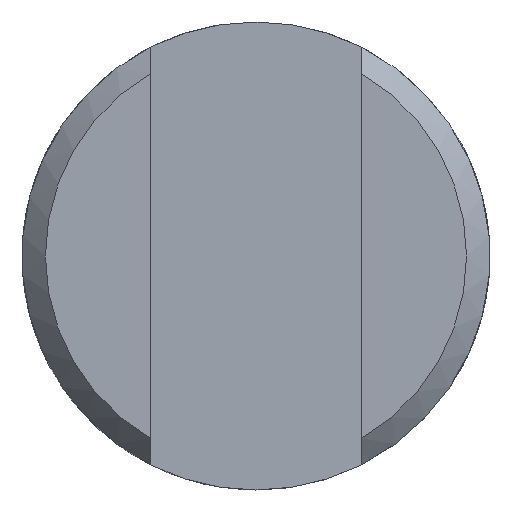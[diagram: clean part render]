
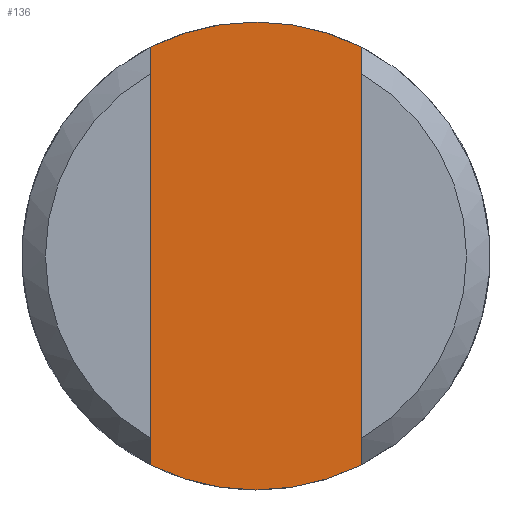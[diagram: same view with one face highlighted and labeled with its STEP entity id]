
A CAD part, front view. The second image highlights one B-rep face of the part: STEP entity #136.
In plain terms, the highlighted planar face has unit normal (0, -1, 0).
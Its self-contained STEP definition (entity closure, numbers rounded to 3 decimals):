
#124=PLANE('',#372);
#128=FACE_OUTER_BOUND('',#217,.T.);
#136=ADVANCED_FACE('',(#128),#124,.T.);
#158=LINE('',#572,#166);
#159=LINE('',#574,#167);
#166=VECTOR('',#421,1.);
#167=VECTOR('',#424,1.);
#170=CIRCLE('',#359,10.);
#172=CIRCLE('',#361,10.);
#217=EDGE_LOOP('',(#261,#262,#263,#264));
#261=ORIENTED_EDGE('',*,*,#340,.F.);
#262=ORIENTED_EDGE('',*,*,#329,.F.);
#263=ORIENTED_EDGE('',*,*,#339,.T.);
#264=ORIENTED_EDGE('',*,*,#325,.F.);
#298=VERTEX_POINT('',#531);
#301=VERTEX_POINT('',#536);
#302=VERTEX_POINT('',#538);
#305=VERTEX_POINT('',#544);
#325=EDGE_CURVE('',#301,#302,#170,.T.);
#329=EDGE_CURVE('',#305,#298,#172,.T.);
#339=EDGE_CURVE('',#305,#302,#158,.T.);
#340=EDGE_CURVE('',#298,#301,#159,.T.);
#359=AXIS2_PLACEMENT_3D('',#537,#393,#394);
#361=AXIS2_PLACEMENT_3D('',#545,#399,#400);
#372=AXIS2_PLACEMENT_3D('',#575,#425,#426);
#393=DIRECTION('',(0.,1.,0.));
#394=DIRECTION('',(0.,0.,-1.));
#399=DIRECTION('',(0.,1.,0.));
#400=DIRECTION('',(0.,0.,-1.));
#421=DIRECTION('',(0.,0.,1.));
#424=DIRECTION('',(0.,0.,1.));
#425=DIRECTION('',(0.,-1.,0.));
#426=DIRECTION('',(0.,0.,-1.));
#531=CARTESIAN_POINT('',(-4.5,25.,-8.93));
#536=CARTESIAN_POINT('',(-4.5,25.,8.93));
#537=CARTESIAN_POINT('',(0.,25.,0.));
#538=CARTESIAN_POINT('',(4.5,25.,8.93));
#544=CARTESIAN_POINT('',(4.5,25.,-8.93));
#545=CARTESIAN_POINT('',(0.,25.,0.));
#572=CARTESIAN_POINT('',(4.5,25.,15.));
#574=CARTESIAN_POINT('',(-4.5,25.,15.));
#575=CARTESIAN_POINT('',(4.5,25.,15.));
